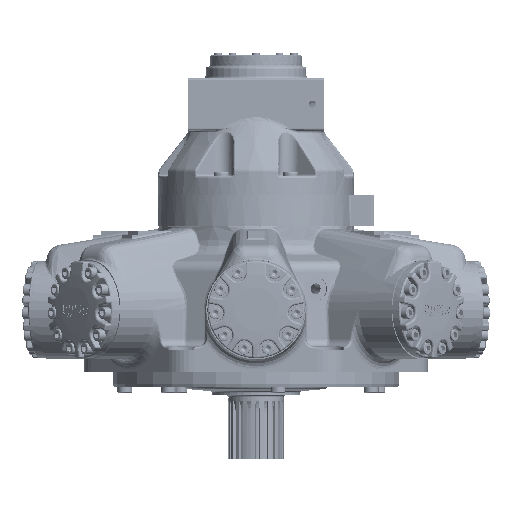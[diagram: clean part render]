
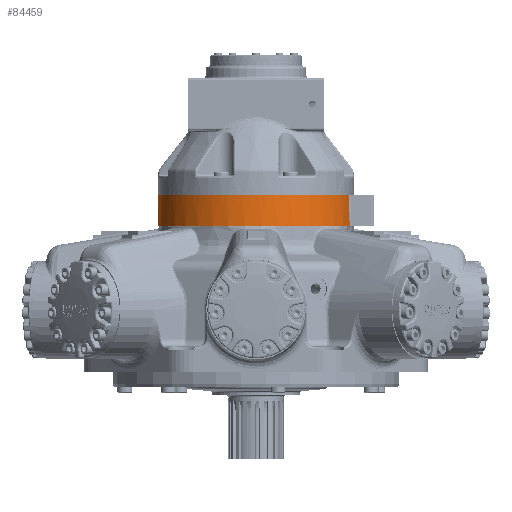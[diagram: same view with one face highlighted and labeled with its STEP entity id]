
A CAD part, front view. The second image highlights one B-rep face of the part: STEP entity #84459.
In plain terms, the highlighted conical face has half-angle 2 degrees and reference radius 156.601 mm.
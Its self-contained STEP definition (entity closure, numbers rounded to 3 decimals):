
#4754=B_SPLINE_CURVE_WITH_KNOTS('',3,(#176429,#176430,#176431,#176432),
 .UNSPECIFIED.,.F.,.F.,(4,4),(-5.723,-0.64),
 .UNSPECIFIED.);
#4755=B_SPLINE_CURVE_WITH_KNOTS('',3,(#176435,#176436,#176437,#176438),
 .UNSPECIFIED.,.F.,.F.,(4,4),(-5.864,-0.78),
 .UNSPECIFIED.);
#13149=CONICAL_SURFACE('',#91772,156.601,2.);
#21064=FACE_OUTER_BOUND('',#27572,.T.);
#27572=EDGE_LOOP('',(#70488,#70489,#70490,#70491));
#31639=CIRCLE('',#91773,155.691);
#31640=CIRCLE('',#91774,157.465);
#38931=VERTEX_POINT('',#176425);
#38932=VERTEX_POINT('',#176426);
#38933=VERTEX_POINT('',#176428);
#38934=VERTEX_POINT('',#176433);
#49678=EDGE_CURVE('',#38931,#38932,#31639,.T.);
#49679=EDGE_CURVE('',#38933,#38932,#4754,.T.);
#49680=EDGE_CURVE('',#38933,#38934,#31640,.T.);
#49681=EDGE_CURVE('',#38931,#38934,#4755,.T.);
#70488=ORIENTED_EDGE('',*,*,#49678,.T.);
#70489=ORIENTED_EDGE('',*,*,#49679,.F.);
#70490=ORIENTED_EDGE('',*,*,#49680,.T.);
#70491=ORIENTED_EDGE('',*,*,#49681,.F.);
#84459=ADVANCED_FACE('',(#21064),#13149,.T.);
#91772=AXIS2_PLACEMENT_3D('',#176424,#109717,#109718);
#91773=AXIS2_PLACEMENT_3D('',#176427,#109719,#109720);
#91774=AXIS2_PLACEMENT_3D('',#176434,#109721,#109722);
#109717=DIRECTION('center_axis',(0.,0.,
-1.));
#109718=DIRECTION('ref_axis',(-1.,-0.012,0.));
#109719=DIRECTION('center_axis',(0.,0.,
-1.));
#109720=DIRECTION('ref_axis',(-1.,-0.012,0.));
#109721=DIRECTION('center_axis',(0.,0.,
1.));
#109722=DIRECTION('ref_axis',(-1.,-0.012,0.));
#176424=CARTESIAN_POINT('Origin',(-6.365,-1.369,263.766));
#176425=CARTESIAN_POINT('',(141.132,-51.211,289.814));
#176426=CARTESIAN_POINT('',(140.397,50.599,289.814));
#176427=CARTESIAN_POINT('Origin',(-6.365,-1.369,289.814));
#176428=CARTESIAN_POINT('',(142.265,50.633,239.014));
#176429=CARTESIAN_POINT('Ctrl Pts',(142.265,50.633,239.014));
#176430=CARTESIAN_POINT('Ctrl Pts',(141.643,50.622,255.947));
#176431=CARTESIAN_POINT('Ctrl Pts',(141.02,50.61,272.881));
#176432=CARTESIAN_POINT('Ctrl Pts',(140.397,50.599,289.814));
#176433=CARTESIAN_POINT('',(143.007,-51.199,239.014));
#176434=CARTESIAN_POINT('Origin',(-6.365,-1.369,239.014));
#176435=CARTESIAN_POINT('Ctrl Pts',(141.132,-51.211,289.814));
#176436=CARTESIAN_POINT('Ctrl Pts',(141.758,-51.207,
272.881));
#176437=CARTESIAN_POINT('Ctrl Pts',(142.383,-51.203,
255.947));
#176438=CARTESIAN_POINT('Ctrl Pts',(143.007,-51.199,239.014));
